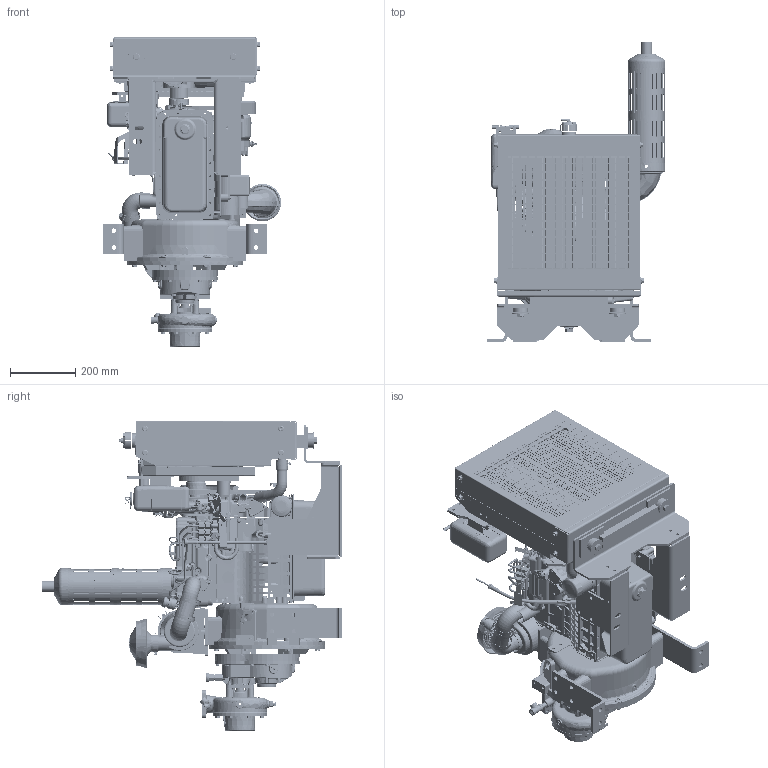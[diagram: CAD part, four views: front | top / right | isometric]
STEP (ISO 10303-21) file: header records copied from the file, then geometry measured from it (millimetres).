
FILE_DESCRIPTION (( 'STEP AP214' ), '1' );
FILE_NAME ('DAD2333.STEP', '2026-03-19T19:08:56', ( '' ), ( '' ), 'SwSTEP 2.0', 'SolidWorks 2024', '' );
FILE_SCHEMA (( 'AUTOMOTIVE_DESIGN' ));
Length unit declared in the file: inch
Products named in the file (1): DAD2333
Bounding box: 544.55 x 916.71 x 945.28 mm (x, y, z)
Surface area: 5628640.6 mm2 (no closed solid volume)
Topology: 0 solids, 920 shells, 10527 faces, 46370 edges, 35062 vertices
Faces by surface type: plane 4063, cylinder 3331, bspline 1069, torus 1008, cone 943, sphere 113
Entity records: 739063 total; most frequent: CARTESIAN_POINT 416000, ORIENTED_EDGE 65513, DIRECTION 50268, EDGE_CURVE 46234, VERTEX_POINT 35057, B_SPLINE_CURVE_WITH_KNOTS 23421, AXIS2_PLACEMENT_3D 18261, LINE 13746
